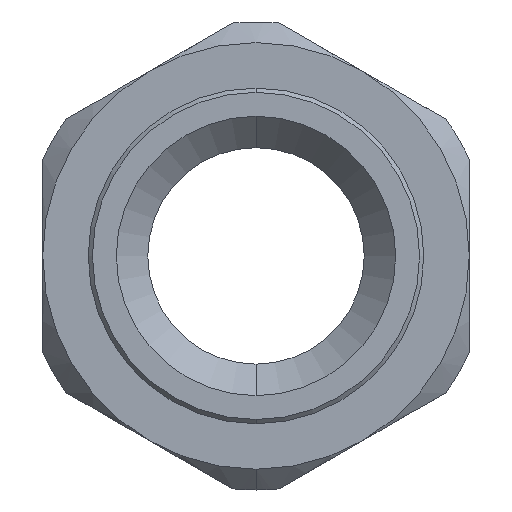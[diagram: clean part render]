
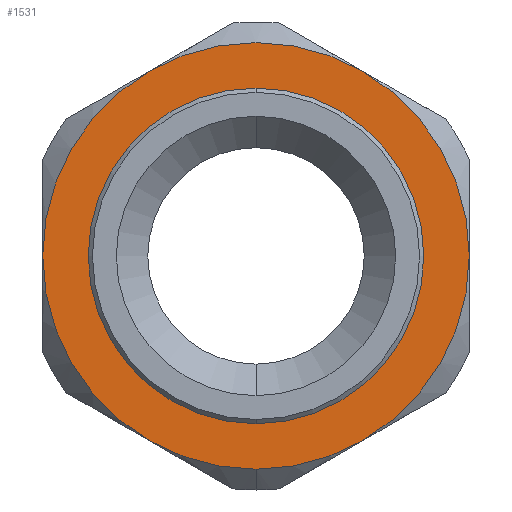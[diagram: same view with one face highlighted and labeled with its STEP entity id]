
A CAD part, front view. The second image highlights one B-rep face of the part: STEP entity #1531.
In plain terms, the highlighted planar face has unit normal (0, -1, 0).
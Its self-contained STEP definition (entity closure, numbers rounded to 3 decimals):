
#31 = AXIS2_PLACEMENT_3D ( 'NONE', #426, #433, #434 ) ;
#205 = ORIENTED_EDGE ( 'NONE', *, *, #1618, .F. ) ;
#206 = ORIENTED_EDGE ( 'NONE', *, *, #1649, .F. ) ;
#207 = ORIENTED_EDGE ( 'NONE', *, *, #1648, .T. ) ;
#208 = ORIENTED_EDGE ( 'NONE', *, *, #1647, .T. ) ;
#209 = ORIENTED_EDGE ( 'NONE', *, *, #1650, .T. ) ;
#210 = ORIENTED_EDGE ( 'NONE', *, *, #1646, .T. ) ;
#211 = ORIENTED_EDGE ( 'NONE', *, *, #1645, .T. ) ;
#212 = ORIENTED_EDGE ( 'NONE', *, *, #1862, .T. ) ;
#213 = ORIENTED_EDGE ( 'NONE', *, *, #1644, .T. ) ;
#285 = EDGE_LOOP ( 'NONE', ( #205, #206 ) ) ;
#286 = EDGE_LOOP ( 'NONE', ( #207, #209, #208, #210, #211, #212, #213 ) ) ;
#426 = CARTESIAN_POINT ( 'NONE',  ( 0., 1., 0. ) ) ;
#433 = DIRECTION ( 'NONE',  ( 0., -1., 0. ) ) ;
#434 = DIRECTION ( 'NONE',  ( 0., 0., -1. ) ) ;
#649 = FACE_BOUND ( 'NONE', #285, .T. ) ;
#650 = FACE_OUTER_BOUND ( 'NONE', #286, .T. ) ;
#684 = AXIS2_PLACEMENT_3D ( 'NONE', #1362, #1363, #1364 ) ;
#767 = AXIS2_PLACEMENT_3D ( 'NONE', #2225, #2226, #2227 ) ;
#780 = AXIS2_PLACEMENT_3D ( 'NONE', #2210, #2211, #2212 ) ;
#786 = AXIS2_PLACEMENT_3D ( 'NONE', #2126, #2133, #2134 ) ;
#797 = AXIS2_PLACEMENT_3D ( 'NONE', #2222, #2223, #2224 ) ;
#803 = AXIS2_PLACEMENT_3D ( 'NONE', #2219, #2220, #2221 ) ;
#824 = AXIS2_PLACEMENT_3D ( 'NONE', #2213, #2214, #2215 ) ;
#825 = AXIS2_PLACEMENT_3D ( 'NONE', #2216, #2217, #2218 ) ;
#827 = AXIS2_PLACEMENT_3D ( 'NONE', #2228, #2229, #2230 ) ;
#1004 = VERTEX_POINT ( 'NONE', #1149 ) ;
#1035 = VERTEX_POINT ( 'NONE', #1180 ) ;
#1036 = VERTEX_POINT ( 'NONE', #1181 ) ;
#1037 = VERTEX_POINT ( 'NONE', #1182 ) ;
#1056 = VERTEX_POINT ( 'NONE', #1201 ) ;
#1064 = VERTEX_POINT ( 'NONE', #1209 ) ;
#1072 = VERTEX_POINT ( 'NONE', #1217 ) ;
#1073 = VERTEX_POINT ( 'NONE', #1218 ) ;
#1108 = VERTEX_POINT ( 'NONE', #1253 ) ;
#1149 = CARTESIAN_POINT ( 'NONE',  ( 25.425, 1., 0. ) ) ;
#1180 = CARTESIAN_POINT ( 'NONE',  ( 0., 1., -25.425 ) ) ;
#1181 = CARTESIAN_POINT ( 'NONE',  ( 12.713, 1., -22.019 ) ) ;
#1182 = CARTESIAN_POINT ( 'NONE',  ( -25.425, 1., 0. ) ) ;
#1201 = CARTESIAN_POINT ( 'NONE',  ( -12.713, 1., -22.019 ) ) ;
#1209 = CARTESIAN_POINT ( 'NONE',  ( -12.713, 1., 22.019 ) ) ;
#1217 = CARTESIAN_POINT ( 'NONE',  ( 0., 1., -20. ) ) ;
#1218 = CARTESIAN_POINT ( 'NONE',  ( 0., 1., 20. ) ) ;
#1253 = CARTESIAN_POINT ( 'NONE',  ( 12.712, 1., 22.019 ) ) ;
#1361 = PLANE ( 'NONE',  #684 ) ;
#1362 = CARTESIAN_POINT ( 'NONE',  ( -27.9, 1., 0. ) ) ;
#1363 = DIRECTION ( 'NONE',  ( 0., 1., 0. ) ) ;
#1364 = DIRECTION ( 'NONE',  ( 0., 0., 1. ) ) ;
#1531 = ADVANCED_FACE ( 'NONE', ( #649, #650 ), #1361, .F. ) ;
#1618 = EDGE_CURVE ( 'NONE', #1072, #1073, #1814, .T. ) ;
#1644 = EDGE_CURVE ( 'NONE', #1036, #1004, #1798, .T. ) ;
#1645 = EDGE_CURVE ( 'NONE', #1056, #1035, #1797, .T. ) ;
#1646 = EDGE_CURVE ( 'NONE', #1037, #1056, #1796, .T. ) ;
#1647 = EDGE_CURVE ( 'NONE', #1064, #1037, #1795, .T. ) ;
#1648 = EDGE_CURVE ( 'NONE', #1004, #1108, #1794, .T. ) ;
#1649 = EDGE_CURVE ( 'NONE', #1073, #1072, #1793, .T. ) ;
#1650 = EDGE_CURVE ( 'NONE', #1108, #1064, #1792, .T. ) ;
#1769 = CIRCLE ( 'NONE', #31, 25.425 ) ;
#1792 = CIRCLE ( 'NONE', #827, 25.425 ) ;
#1793 = CIRCLE ( 'NONE', #767, 20. ) ;
#1794 = CIRCLE ( 'NONE', #797, 25.425 ) ;
#1795 = CIRCLE ( 'NONE', #803, 25.425 ) ;
#1796 = CIRCLE ( 'NONE', #825, 25.425 ) ;
#1797 = CIRCLE ( 'NONE', #824, 25.425 ) ;
#1798 = CIRCLE ( 'NONE', #780, 25.425 ) ;
#1814 = CIRCLE ( 'NONE', #786, 20. ) ;
#1862 = EDGE_CURVE ( 'NONE', #1035, #1036, #1769, .T. ) ;
#2126 = CARTESIAN_POINT ( 'NONE',  ( 0., 1., 0. ) ) ;
#2133 = DIRECTION ( 'NONE',  ( 0., -1., 0. ) ) ;
#2134 = DIRECTION ( 'NONE',  ( 0., 0., -1. ) ) ;
#2210 = CARTESIAN_POINT ( 'NONE',  ( 0., 1., 0. ) ) ;
#2211 = DIRECTION ( 'NONE',  ( 0., -1., 0. ) ) ;
#2212 = DIRECTION ( 'NONE',  ( 0., 0., -1. ) ) ;
#2213 = CARTESIAN_POINT ( 'NONE',  ( 0., 1., 0. ) ) ;
#2214 = DIRECTION ( 'NONE',  ( 0., -1., 0. ) ) ;
#2215 = DIRECTION ( 'NONE',  ( 0., 0., -1. ) ) ;
#2216 = CARTESIAN_POINT ( 'NONE',  ( 0., 1., 0. ) ) ;
#2217 = DIRECTION ( 'NONE',  ( 0., -1., 0. ) ) ;
#2218 = DIRECTION ( 'NONE',  ( 0., 0., -1. ) ) ;
#2219 = CARTESIAN_POINT ( 'NONE',  ( 0., 1., 0. ) ) ;
#2220 = DIRECTION ( 'NONE',  ( 0., -1., 0. ) ) ;
#2221 = DIRECTION ( 'NONE',  ( 0., 0., -1. ) ) ;
#2222 = CARTESIAN_POINT ( 'NONE',  ( 0., 1., 0. ) ) ;
#2223 = DIRECTION ( 'NONE',  ( 0., -1., 0. ) ) ;
#2224 = DIRECTION ( 'NONE',  ( 0., 0., -1. ) ) ;
#2225 = CARTESIAN_POINT ( 'NONE',  ( 0., 1., 0. ) ) ;
#2226 = DIRECTION ( 'NONE',  ( 0., -1., 0. ) ) ;
#2227 = DIRECTION ( 'NONE',  ( 0., 0., -1. ) ) ;
#2228 = CARTESIAN_POINT ( 'NONE',  ( 0., 1., 0. ) ) ;
#2229 = DIRECTION ( 'NONE',  ( 0., -1., 0. ) ) ;
#2230 = DIRECTION ( 'NONE',  ( 0., 0., -1. ) ) ;
